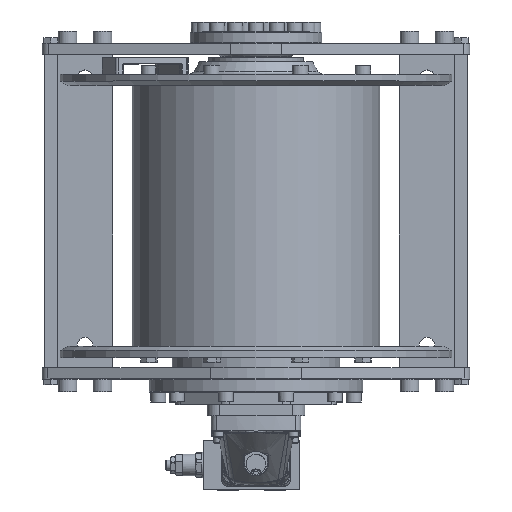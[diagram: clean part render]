
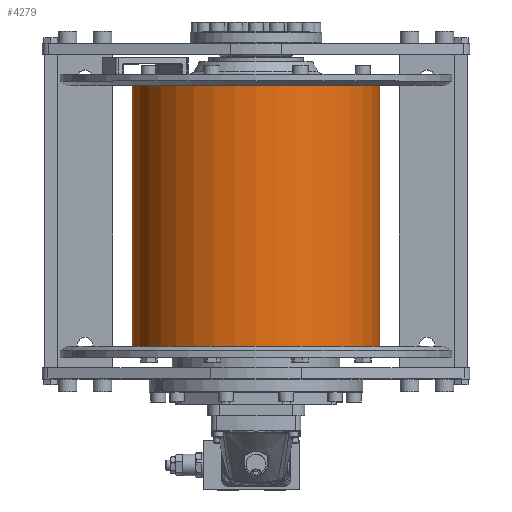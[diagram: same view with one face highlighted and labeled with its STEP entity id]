
A CAD part, top view. The second image highlights one B-rep face of the part: STEP entity #4279.
In plain terms, the highlighted cylindrical face has radius 199 mm (diameter 398 mm), a full revolution.
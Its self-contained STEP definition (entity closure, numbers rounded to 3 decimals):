
#4279 = ADVANCED_FACE( '', ( #9432, #9433 ), #9434, .T. );
#9432 = FACE_OUTER_BOUND( '', #25792, .T. );
#9433 = FACE_OUTER_BOUND( '', #25793, .T. );
#9434 = CYLINDRICAL_SURFACE( '', #25794, 199. );
#25792 = EDGE_LOOP( '', ( #45649 ) );
#25793 = EDGE_LOOP( '', ( #45650 ) );
#25794 = AXIS2_PLACEMENT_3D( '', #45651, #45652, #45653 );
#45649 = ORIENTED_EDGE( '', *, *, #57622, .T. );
#45650 = ORIENTED_EDGE( '', *, *, #57623, .F. );
#45651 = CARTESIAN_POINT( '', ( 0., -209.75, 0. ) );
#45652 = DIRECTION( '', ( 0., -1., 0. ) );
#45653 = DIRECTION( '', ( 0., 0., 1. ) );
#57622 = EDGE_CURVE( '', #67584, #67584, #67585, .T. );
#57623 = EDGE_CURVE( '', #67586, #67586, #67587, .T. );
#67584 = VERTEX_POINT( '', #98226 );
#67585 = CIRCLE( '', #98227, 199. );
#67586 = VERTEX_POINT( '', #98228 );
#67587 = CIRCLE( '', #98229, 199. );
#98226 = CARTESIAN_POINT( '', ( 199., -209.75, 0. ) );
#98227 = AXIS2_PLACEMENT_3D( '', #116355, #116356, #116357 );
#98228 = CARTESIAN_POINT( '', ( 199., 209.75, 0. ) );
#98229 = AXIS2_PLACEMENT_3D( '', #116358, #116359, #116360 );
#116355 = CARTESIAN_POINT( '', ( 0., -209.75, 0. ) );
#116356 = DIRECTION( '', ( 0., 1., 0. ) );
#116357 = DIRECTION( '', ( 1., 0., 0. ) );
#116358 = CARTESIAN_POINT( '', ( 0., 209.75, 0. ) );
#116359 = DIRECTION( '', ( 0., 1., 0. ) );
#116360 = DIRECTION( '', ( 1., 0., 0. ) );
